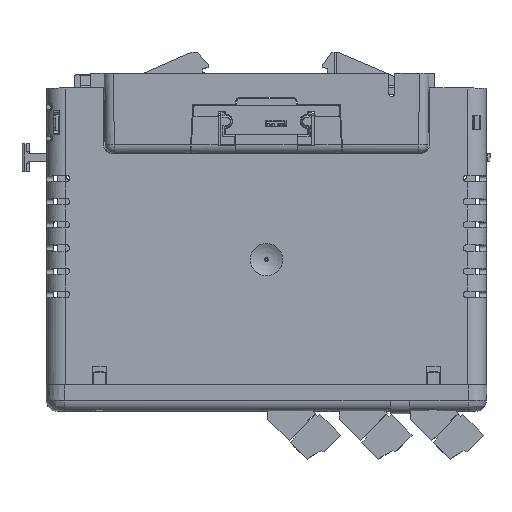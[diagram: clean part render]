
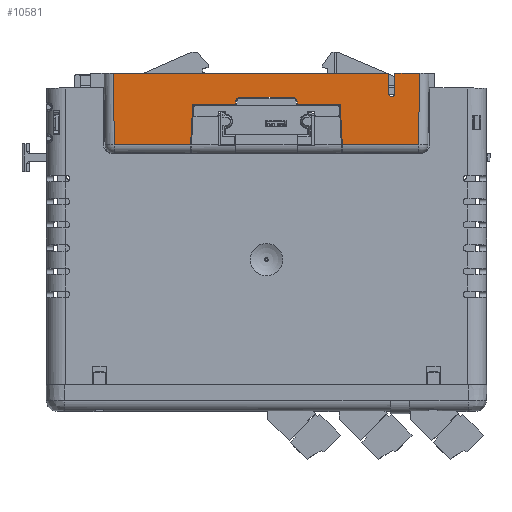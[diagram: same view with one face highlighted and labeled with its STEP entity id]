
A CAD part, top view. The second image highlights one B-rep face of the part: STEP entity #10581.
In plain terms, the highlighted planar face has unit normal (0, -0.013, 1) as drawn and (0, 1, 0.013) by its records, which use the part's own axes.
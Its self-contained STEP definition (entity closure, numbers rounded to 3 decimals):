
#10581 = ADVANCED_FACE( '', ( #23349 ), #23350, .T. );
#23349 = FACE_OUTER_BOUND( '', #43174, .T. );
#23350 = PLANE( '', #43175 );
#43174 = EDGE_LOOP( '', ( #79639, #79640, #79641, #79642, #79643, #79644, #79645, #79646, #79647, #79648, #79649, #79650, #79651, #79652, #79653, #79654, #79655, #79656 ) );
#43175 = AXIS2_PLACEMENT_3D( '', #79657, #79658, #79659 );
#79639 = ORIENTED_EDGE( '', *, *, #112116, .T. );
#79640 = ORIENTED_EDGE( '', *, *, #110232, .T. );
#79641 = ORIENTED_EDGE( '', *, *, #112117, .F. );
#79642 = ORIENTED_EDGE( '', *, *, #108382, .T. );
#79643 = ORIENTED_EDGE( '', *, *, #112118, .T. );
#79644 = ORIENTED_EDGE( '', *, *, #112119, .T. );
#79645 = ORIENTED_EDGE( '', *, *, #103146, .T. );
#79646 = ORIENTED_EDGE( '', *, *, #112120, .T. );
#79647 = ORIENTED_EDGE( '', *, *, #112121, .T. );
#79648 = ORIENTED_EDGE( '', *, *, #109891, .T. );
#79649 = ORIENTED_EDGE( '', *, *, #112122, .T. );
#79650 = ORIENTED_EDGE( '', *, *, #112123, .T. );
#79651 = ORIENTED_EDGE( '', *, *, #99910, .T. );
#79652 = ORIENTED_EDGE( '', *, *, #110768, .T. );
#79653 = ORIENTED_EDGE( '', *, *, #106344, .T. );
#79654 = ORIENTED_EDGE( '', *, *, #102273, .T. );
#79655 = ORIENTED_EDGE( '', *, *, #112124, .F. );
#79656 = ORIENTED_EDGE( '', *, *, #108080, .T. );
#79657 = CARTESIAN_POINT( '', ( 0., 15.875, 0. ) );
#79658 = DIRECTION( '', ( 0., 1., 0.013 ) );
#79659 = DIRECTION( '', ( 0., -0.013, 1. ) );
#99910 = EDGE_CURVE( '', #117289, #117290, #117291, .T. );
#102273 = EDGE_CURVE( '', #117071, #121553, #121556, .T. );
#103146 = EDGE_CURVE( '', #123068, #123066, #123069, .T. );
#106344 = EDGE_CURVE( '', #128395, #117071, #128396, .T. );
#108080 = EDGE_CURVE( '', #131071, #131073, #131075, .T. );
#108382 = EDGE_CURVE( '', #131524, #131522, #131525, .F. );
#109891 = EDGE_CURVE( '', #133758, #133760, #133762, .T. );
#110232 = EDGE_CURVE( '', #134237, #134239, #134241, .T. );
#110768 = EDGE_CURVE( '', #117290, #128395, #134973, .T. );
#112116 = EDGE_CURVE( '', #131073, #134237, #136819, .F. );
#112117 = EDGE_CURVE( '', #131524, #134239, #136820, .T. );
#112118 = EDGE_CURVE( '', #131522, #136821, #136822, .T. );
#112119 = EDGE_CURVE( '', #136821, #123068, #136823, .T. );
#112120 = EDGE_CURVE( '', #123066, #136824, #136825, .T. );
#112121 = EDGE_CURVE( '', #136824, #133758, #136826, .F. );
#112122 = EDGE_CURVE( '', #133760, #136827, #136828, .F. );
#112123 = EDGE_CURVE( '', #136827, #117289, #136829, .T. );
#112124 = EDGE_CURVE( '', #131071, #121553, #136830, .T. );
#117071 = VERTEX_POINT( '', #142641 );
#117289 = VERTEX_POINT( '', #142949 );
#117290 = VERTEX_POINT( '', #142950 );
#117291 = LINE( '', #142951, #142952 );
#121553 = VERTEX_POINT( '', #149302 );
#121556 = LINE( '', #149305, #149306 );
#123066 = VERTEX_POINT( '', #151552 );
#123068 = VERTEX_POINT( '', #151555 );
#123069 = LINE( '', #151556, #151557 );
#128395 = VERTEX_POINT( '', #160317 );
#128396 = LINE( '', #160318, #160319 );
#131071 = VERTEX_POINT( '', #164482 );
#131073 = VERTEX_POINT( '', #164485 );
#131075 = LINE( '', #164488, #164489 );
#131522 = VERTEX_POINT( '', #165167 );
#131524 = VERTEX_POINT( '', #165169 );
#131525 = LINE( '', #165170, #165171 );
#133758 = VERTEX_POINT( '', #168748 );
#133760 = VERTEX_POINT( '', #168751 );
#133762 = LINE( '', #168754, #168755 );
#134237 = VERTEX_POINT( '', #169530 );
#134239 = VERTEX_POINT( '', #169533 );
#134241 = LINE( '', #169536, #169537 );
#134973 = LINE( '', #170701, #170702 );
#136819 = ELLIPSE( '', #173551, 0.762, 0.762 );
#136820 = LINE( '', #173552, #173553 );
#136821 = VERTEX_POINT( '', #173554 );
#136822 = LINE( '', #173555, #173556 );
#136823 = LINE( '', #173557, #173558 );
#136824 = VERTEX_POINT( '', #173559 );
#136825 = LINE( '', #173560, #173561 );
#136826 = ELLIPSE( '', #173562, 1.27, 1.27 );
#136827 = VERTEX_POINT( '', #173563 );
#136828 = ELLIPSE( '', #173564, 1.27, 1.27 );
#136829 = LINE( '', #173565, #173566 );
#136830 = LINE( '', #173567, #173568 );
#142641 = CARTESIAN_POINT( '', ( 41.655, 15.62, 19.49 ) );
#142949 = CARTESIAN_POINT( '', ( 8.382, 15.763, 8.534 ) );
#142950 = CARTESIAN_POINT( '', ( 20.193, 15.763, 8.534 ) );
#142951 = CARTESIAN_POINT( '', ( 0., 15.763, 8.534 ) );
#142952 = VECTOR( '', #182819, 1000. );
#149302 = CARTESIAN_POINT( '', ( 41.91, 15.875, 0. ) );
#149305 = CARTESIAN_POINT( '', ( 41.903, 15.868, 0.548 ) );
#149306 = VECTOR( '', #185415, 1000. );
#151552 = CARTESIAN_POINT( '', ( -8.382, 15.763, 8.534 ) );
#151555 = CARTESIAN_POINT( '', ( -20.193, 15.763, 8.534 ) );
#151556 = CARTESIAN_POINT( '', ( 0., 15.763, 8.534 ) );
#151557 = VECTOR( '', #186309, 1000. );
#160317 = CARTESIAN_POINT( '', ( 20.767, 15.62, 19.49 ) );
#160318 = CARTESIAN_POINT( '', ( 44.162, 15.62, 19.49 ) );
#160319 = VECTOR( '', #189607, 1000. );
#164482 = CARTESIAN_POINT( '', ( 35.15, 15.875, 0. ) );
#164485 = CARTESIAN_POINT( '', ( 35.052, 15.802, 5.615 ) );
#164488 = CARTESIAN_POINT( '', ( 35.139, 15.867, 0.613 ) );
#164489 = VECTOR( '', #191267, 1000. );
#165167 = CARTESIAN_POINT( '', ( -41.655, 15.62, 19.49 ) );
#165169 = CARTESIAN_POINT( '', ( -41.91, 15.875, 0. ) );
#165170 = CARTESIAN_POINT( '', ( -41.903, 15.868, 0.548 ) );
#165171 = VECTOR( '', #191539, 1000. );
#168748 = CARTESIAN_POINT( '', ( -7.112, 15.79, 6.502 ) );
#168751 = CARTESIAN_POINT( '', ( 7.112, 15.79, 6.502 ) );
#168754 = CARTESIAN_POINT( '', ( 0., 15.79, 6.502 ) );
#168755 = VECTOR( '', #193044, 1000. );
#169530 = CARTESIAN_POINT( '', ( 33.528, 15.802, 5.588 ) );
#169533 = CARTESIAN_POINT( '', ( 33.43, 15.875, 0. ) );
#169536 = CARTESIAN_POINT( '', ( 33.42, 15.883, -0.583 ) );
#169537 = VECTOR( '', #193337, 1000. );
#170701 = CARTESIAN_POINT( '', ( 19.692, 15.889, -1.032 ) );
#170702 = VECTOR( '', #193773, 1000. );
#173551 = AXIS2_PLACEMENT_3D( '', #195005, #195006, #195007 );
#173552 = CARTESIAN_POINT( '', ( -44.45, 15.875, 0. ) );
#173553 = VECTOR( '', #195008, 1000. );
#173554 = CARTESIAN_POINT( '', ( -20.767, 15.62, 19.49 ) );
#173555 = CARTESIAN_POINT( '', ( 44.162, 15.62, 19.49 ) );
#173556 = VECTOR( '', #195009, 1000. );
#173557 = CARTESIAN_POINT( '', ( -19.692, 15.889, -1.032 ) );
#173558 = VECTOR( '', #195010, 1000. );
#173559 = CARTESIAN_POINT( '', ( -8.382, 15.773, 7.772 ) );
#173560 = CARTESIAN_POINT( '', ( -8.382, 15.875, 0. ) );
#173561 = VECTOR( '', #195011, 1000. );
#173562 = AXIS2_PLACEMENT_3D( '', #195012, #195013, #195014 );
#173563 = CARTESIAN_POINT( '', ( 8.382, 15.773, 7.772 ) );
#173564 = AXIS2_PLACEMENT_3D( '', #195015, #195016, #195017 );
#173565 = CARTESIAN_POINT( '', ( 8.382, 15.875, 0. ) );
#173566 = VECTOR( '', #195018, 1000. );
#173567 = CARTESIAN_POINT( '', ( -44.45, 15.875, 0. ) );
#173568 = VECTOR( '', #195019, 1000. );
#182819 = DIRECTION( '', ( 1., 0., 0. ) );
#185415 = DIRECTION( '', ( 0.013, 0.013, -1. ) );
#186309 = DIRECTION( '', ( 1., 0., 0. ) );
#189607 = DIRECTION( '', ( 1., 0., 0. ) );
#191267 = DIRECTION( '', ( -0.017, -0.013, 1. ) );
#191539 = DIRECTION( '', ( -0.013, 0.013, -1. ) );
#193044 = DIRECTION( '', ( 1., 0., 0. ) );
#193337 = DIRECTION( '', ( -0.017, 0.013, -1. ) );
#193773 = DIRECTION( '', ( 0.052, -0.013, 0.999 ) );
#195005 = CARTESIAN_POINT( '', ( 34.29, 15.802, 5.588 ) );
#195006 = DIRECTION( '', ( 0., 1., 0.013 ) );
#195007 = DIRECTION( '', ( 0., -0.013, 1. ) );
#195008 = DIRECTION( '', ( 1., 0., 0. ) );
#195009 = DIRECTION( '', ( 1., 0., 0. ) );
#195010 = DIRECTION( '', ( 0.052, 0.013, -0.999 ) );
#195011 = DIRECTION( '', ( 0., 0.013, -1. ) );
#195012 = CARTESIAN_POINT( '', ( -7.112, 15.773, 7.772 ) );
#195013 = DIRECTION( '', ( 0., 1., 0.013 ) );
#195014 = DIRECTION( '', ( 0., -0.013, 1. ) );
#195015 = CARTESIAN_POINT( '', ( 7.112, 15.773, 7.772 ) );
#195016 = DIRECTION( '', ( 0., 1., 0.013 ) );
#195017 = DIRECTION( '', ( 0., -0.013, 1. ) );
#195018 = DIRECTION( '', ( 0., -0.013, 1. ) );
#195019 = DIRECTION( '', ( 1., 0., 0. ) );
